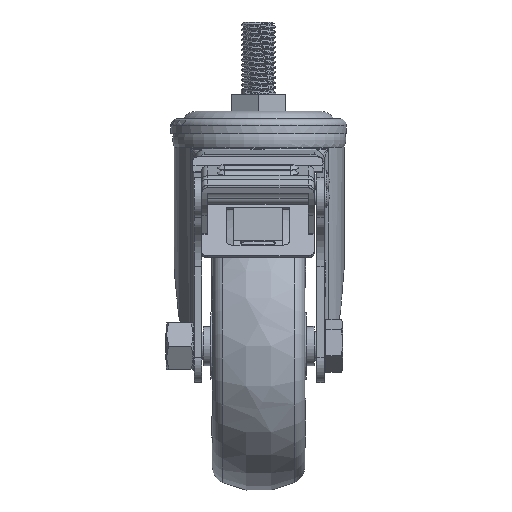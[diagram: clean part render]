
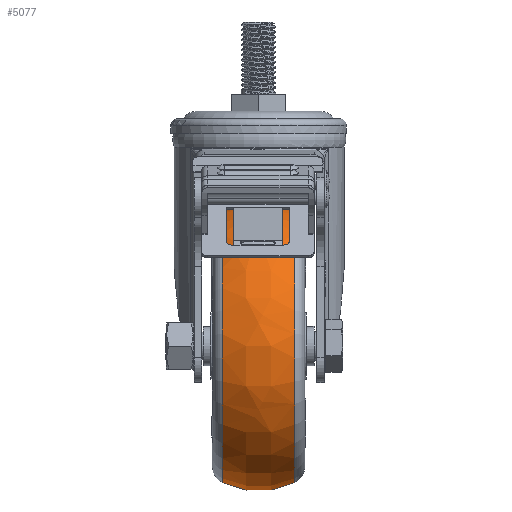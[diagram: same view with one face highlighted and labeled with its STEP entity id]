
A CAD part, left-side view. The second image highlights one B-rep face of the part: STEP entity #5077.
In plain terms, the highlighted free-form (B-spline) face has degree [3, 3] with [4, 7] control points.
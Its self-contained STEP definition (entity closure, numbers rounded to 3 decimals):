
#4125=FACE_BOUND('',#7208,.T.);
#4126=FACE_BOUND('',#7209,.T.);
#4127=FACE_BOUND('',#7210,.T.);
#5077=ADVANCED_FACE('',(#4125,#4126,#4127),#5431,.T.);
#5431=(
BOUNDED_SURFACE()
B_SPLINE_SURFACE(3,3,((#33456,#33457,#33458,#33459,#33460,#33461,#33462),
(#33463,#33464,#33465,#33466,#33467,#33468,#33469),(#33470,#33471,#33472,
#33473,#33474,#33475,#33476),(#33477,#33478,#33479,#33480,#33481,#33482,
#33483)),.UNSPECIFIED.,.F.,.T.,.F.)
B_SPLINE_SURFACE_WITH_KNOTS((4,4),(1,3,3,3,1),(0.,1.),(-0.5,0.,0.5,1.,1.5),
 .UNSPECIFIED.)
GEOMETRIC_REPRESENTATION_ITEM()
RATIONAL_B_SPLINE_SURFACE(((1.,0.333,0.333,1.,0.333,
0.333,1.),(0.939,0.313,0.313,
0.939,0.313,0.313,0.939),
(0.939,0.313,0.313,0.939,
0.313,0.313,0.939),(1.,0.333,
0.333,1.,0.333,0.333,1.)))
REPRESENTATION_ITEM('')
SURFACE()
);
#7208=EDGE_LOOP('',(#12342));
#7209=EDGE_LOOP('',(#12343));
#7210=EDGE_LOOP('',(#12344,#12345,#12346,#12347,#12348));
#8044=CIRCLE('',#20465,47.522);
#8071=CIRCLE('',#20556,47.522);
#12342=ORIENTED_EDGE('',*,*,#17723,.F.);
#12343=ORIENTED_EDGE('',*,*,#17476,.F.);
#12344=ORIENTED_EDGE('',*,*,#16168,.F.);
#12345=ORIENTED_EDGE('',*,*,#16637,.T.);
#12346=ORIENTED_EDGE('',*,*,#16866,.F.);
#12347=ORIENTED_EDGE('',*,*,#16864,.F.);
#12348=ORIENTED_EDGE('',*,*,#16862,.F.);
#14239=VERTEX_POINT('',#27037);
#14240=VERTEX_POINT('',#27042);
#14564=VERTEX_POINT('',#28580);
#14716=VERTEX_POINT('',#29088);
#14717=VERTEX_POINT('',#29095);
#15062=VERTEX_POINT('',#31006);
#15227=VERTEX_POINT('',#32151);
#16168=EDGE_CURVE('',#14239,#14240,#18950,.T.);
#16637=EDGE_CURVE('',#14239,#14564,#18983,.T.);
#16862=EDGE_CURVE('',#14240,#14716,#18988,.T.);
#16864=EDGE_CURVE('',#14716,#14717,#18989,.T.);
#16866=EDGE_CURVE('',#14717,#14564,#18990,.T.);
#17476=EDGE_CURVE('',#15062,#15062,#8044,.T.);
#17723=EDGE_CURVE('',#15227,#15227,#8071,.T.);
#18950=B_SPLINE_CURVE_WITH_KNOTS('',3,(#27038,#27039,#27040,#27041),
 .UNSPECIFIED.,.F.,.F.,(4,4),(0.,1.),.UNSPECIFIED.);
#18983=B_SPLINE_CURVE_WITH_KNOTS('',3,(#28573,#28574,#28575,#28576,#28577,
#28578,#28579),.UNSPECIFIED.,.F.,.F.,(4,3,4),(0.,0.733,1.),
 .UNSPECIFIED.);
#18988=B_SPLINE_CURVE_WITH_KNOTS('',3,(#29084,#29085,#29086,#29087),
 .UNSPECIFIED.,.F.,.F.,(4,4),(0.,1.),.UNSPECIFIED.);
#18989=B_SPLINE_CURVE_WITH_KNOTS('',3,(#29091,#29092,#29093,#29094),
 .UNSPECIFIED.,.F.,.F.,(4,4),(0.,1.),.UNSPECIFIED.);
#18990=B_SPLINE_CURVE_WITH_KNOTS('',3,(#29098,#29099,#29100,#29101,#29102,
#29103),.UNSPECIFIED.,.F.,.F.,(4,2,4),(0.,0.5,1.),.UNSPECIFIED.);
#20465=AXIS2_PLACEMENT_3D('',#31005,#23921,#23922);
#20556=AXIS2_PLACEMENT_3D('',#32150,#24295,#24296);
#23921=DIRECTION('',(0.,-1.,0.));
#23922=DIRECTION('',(-0.707,0.,0.707));
#24295=DIRECTION('',(0.,1.,0.));
#24296=DIRECTION('',(0.707,0.,-0.707));
#27037=CARTESIAN_POINT('',(-69.616,-7.685,-80.614));
#27038=CARTESIAN_POINT('',(-69.616,-7.685,-80.614));
#27039=CARTESIAN_POINT('',(-68.392,-8.016,-79.301));
#27040=CARTESIAN_POINT('',(-67.147,-7.978,-77.966));
#27041=CARTESIAN_POINT('',(-65.933,-7.563,-76.665));
#27042=CARTESIAN_POINT('',(-65.933,-7.563,-76.665));
#28573=CARTESIAN_POINT('',(-69.616,-7.685,-80.614));
#28574=CARTESIAN_POINT('',(-69.667,-7.587,-80.633));
#28575=CARTESIAN_POINT('',(-69.707,-7.479,-80.638));
#28576=CARTESIAN_POINT('',(-69.736,-7.37,-80.629));
#28577=CARTESIAN_POINT('',(-69.746,-7.331,-80.626));
#28578=CARTESIAN_POINT('',(-69.755,-7.29,-80.621));
#28579=CARTESIAN_POINT('',(-69.763,-7.25,-80.614));
#28580=CARTESIAN_POINT('',(-69.763,-7.25,-80.614));
#29084=CARTESIAN_POINT('',(-65.933,-7.563,-76.665));
#29085=CARTESIAN_POINT('',(-65.718,-2.73,-74.724));
#29086=CARTESIAN_POINT('',(-65.718,2.729,-74.724));
#29087=CARTESIAN_POINT('',(-65.933,7.563,-76.665));
#29088=CARTESIAN_POINT('',(-65.933,7.563,-76.665));
#29091=CARTESIAN_POINT('',(-65.933,7.563,-76.665));
#29092=CARTESIAN_POINT('',(-67.17,7.986,-77.991));
#29093=CARTESIAN_POINT('',(-68.438,8.018,-79.35));
#29094=CARTESIAN_POINT('',(-69.684,7.667,-80.687));
#29095=CARTESIAN_POINT('',(-69.684,7.667,-80.687));
#29098=CARTESIAN_POINT('',(-69.684,7.667,-80.687));
#29099=CARTESIAN_POINT('',(-70.158,5.22,-80.245));
#29100=CARTESIAN_POINT('',(-70.398,2.745,-80.021));
#29101=CARTESIAN_POINT('',(-70.428,-2.261,-79.994));
#29102=CARTESIAN_POINT('',(-70.211,-4.795,-80.196));
#29103=CARTESIAN_POINT('',(-69.763,-7.25,-80.614));
#31005=CARTESIAN_POINT('',(-32.,-12.5,-112.402));
#31006=CARTESIAN_POINT('',(-65.603,-12.5,-78.799));
#32150=CARTESIAN_POINT('',(-32.,12.5,-112.402));
#32151=CARTESIAN_POINT('',(1.603,12.5,-146.005));
#33456=CARTESIAN_POINT('',(-79.522,-12.5,-112.402));
#33457=CARTESIAN_POINT('',(-79.522,-12.5,-207.445));
#33458=CARTESIAN_POINT('',(15.522,-12.5,-207.445));
#33459=CARTESIAN_POINT('',(15.522,-12.5,-112.402));
#33460=CARTESIAN_POINT('',(15.522,-12.5,-17.358));
#33461=CARTESIAN_POINT('',(-79.522,-12.5,-17.358));
#33462=CARTESIAN_POINT('',(-79.522,-12.5,-112.402));
#33463=CARTESIAN_POINT('',(-83.218,-4.436,-112.402));
#33464=CARTESIAN_POINT('',(-83.218,-4.436,-214.838));
#33465=CARTESIAN_POINT('',(19.218,-4.436,-214.838));
#33466=CARTESIAN_POINT('',(19.218,-4.436,-112.402));
#33467=CARTESIAN_POINT('',(19.218,-4.436,-9.965));
#33468=CARTESIAN_POINT('',(-83.218,-4.436,-9.965));
#33469=CARTESIAN_POINT('',(-83.218,-4.436,-112.402));
#33470=CARTESIAN_POINT('',(-83.218,4.436,-112.402));
#33471=CARTESIAN_POINT('',(-83.218,4.436,-214.838));
#33472=CARTESIAN_POINT('',(19.218,4.436,-214.838));
#33473=CARTESIAN_POINT('',(19.218,4.436,-112.402));
#33474=CARTESIAN_POINT('',(19.218,4.436,-9.965));
#33475=CARTESIAN_POINT('',(-83.218,4.436,-9.965));
#33476=CARTESIAN_POINT('',(-83.218,4.436,-112.402));
#33477=CARTESIAN_POINT('',(-79.522,12.5,-112.402));
#33478=CARTESIAN_POINT('',(-79.522,12.5,-207.445));
#33479=CARTESIAN_POINT('',(15.522,12.5,-207.445));
#33480=CARTESIAN_POINT('',(15.522,12.5,-112.402));
#33481=CARTESIAN_POINT('',(15.522,12.5,-17.358));
#33482=CARTESIAN_POINT('',(-79.522,12.5,-17.358));
#33483=CARTESIAN_POINT('',(-79.522,12.5,-112.402));
